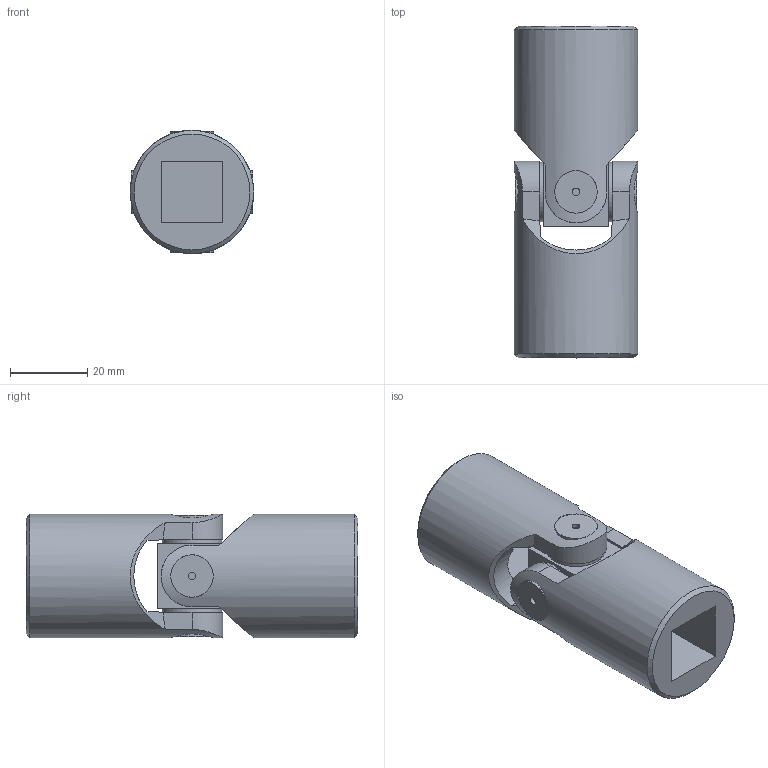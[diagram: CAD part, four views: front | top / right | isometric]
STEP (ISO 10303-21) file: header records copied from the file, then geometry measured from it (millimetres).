
FILE_DESCRIPTION(/* description */ (''),/* implementation_level */ '2;1');
FILE_NAME(/* name */ '\\SRV2016\Societa\Stefano\Disegni 3D\Dis. Clienti\0000Catalogo 3D\01Singoli G-GB\Ø32_3GB-2Q_SGBS202Q.stp',/* time_stamp */ '2021-11-10T15:24:46+01:00',/* author */ ('acquisti'),/* organization */ (''),/* preprocessor_version */ 'ST-DEVELOPER v15.6',/* originating_system */ 'Autodesk Inventor 2015',/* authorisation */ '');
FILE_SCHEMA (('AUTOMOTIVE_DESIGN { 1 0 10303 214 3 1 1 }'));
Length unit declared in the file: millimetre
Products named in the file (3): 1G SFE; 3GB MOQ; Assieme7
Assembly tree (3 placements, depth 2):
  Assieme7
    1G SFE
    3GB MOQ  x2
Bounding box: 32 x 86 x 32 mm (x, y, z)
Volume: 45496.1 mm3; surface area: 16989.7 mm2
Topology: 3 solids, 3 shells, 102 faces, 248 edges, 162 vertices
Faces by surface type: plane 44, cylinder 38, cone 18, torus 2
Full cylindrical faces by diameter (mm): 2 x4, 15.5 x4, 32 x2
Entity records: 1869 total; most frequent: CARTESIAN_POINT 567, DIRECTION 252, ORIENTED_EDGE 250, EDGE_CURVE 125, AXIS2_PLACEMENT_3D 106, VERTEX_POINT 87, EDGE_LOOP 76, FACE_OUTER_BOUND 58
